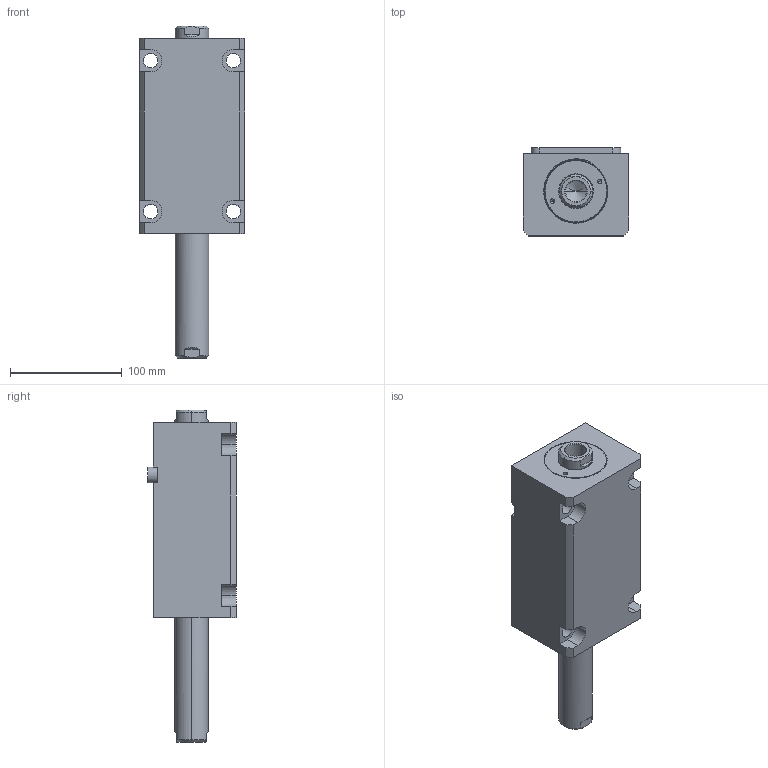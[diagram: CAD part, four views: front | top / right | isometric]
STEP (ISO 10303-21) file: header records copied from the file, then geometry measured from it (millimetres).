
FILE_DESCRIPTION (( 'STEP AP203' ), '1' );
FILE_NAME ('CHTB-LWM50-100N.STEP', '2018-05-22T06:16:13', ( '' ), ( '' ), 'SwSTEP 2.0', 'SolidWorks 2015', '' );
FILE_SCHEMA (( 'CONFIG_CONTROL_DESIGN' ));
Length unit declared in the file: millimetre
Products named in the file (4): 掛极LWM50-100N; 活塞杆LWM50-100N; CHTM-SDMA50QG; CHTB-LWM50-100N
Assembly tree (3 placements, depth 2):
  CHTB-LWM50-100N
    掛极LWM50-100N
    活塞杆LWM50-100N
    CHTM-SDMA50QG
Bounding box: 94 x 79 x 297 mm (x, y, z)
Volume: 1105152.7 mm3; surface area: 161478 mm2
Topology: 3 solids, 3 shells, 213 faces, 571 edges, 374 vertices
Faces by surface type: cylinder 104, plane 57, cone 22, torus 16, bspline 14
Entity records: 11569 total; most frequent: CARTESIAN_POINT 6050, ORIENTED_EDGE 1126, DIRECTION 1011, EDGE_CURVE 563, AXIS2_PLACEMENT_3D 396, VERTEX_POINT 374, EDGE_LOOP 247, LINE 219
